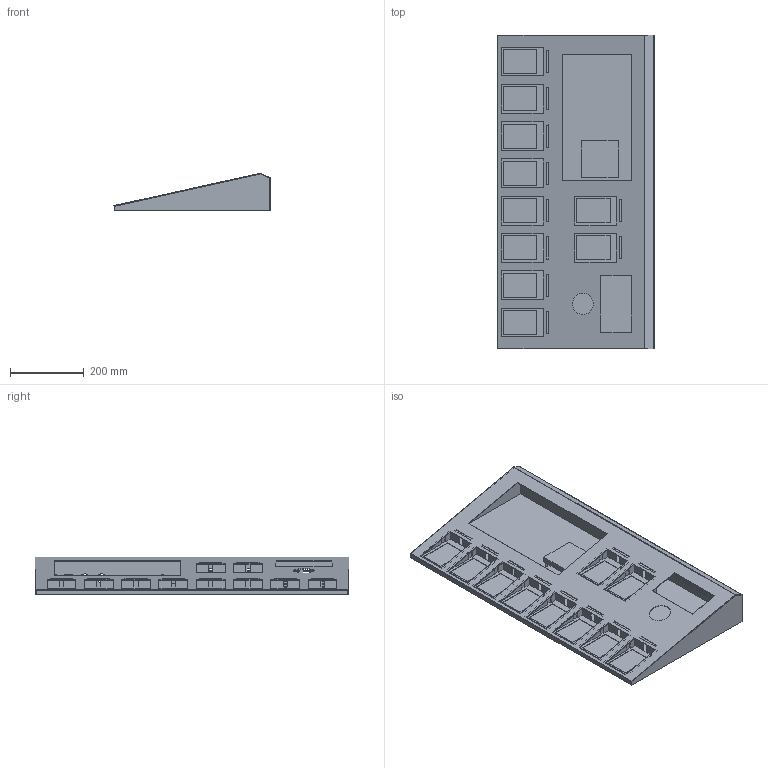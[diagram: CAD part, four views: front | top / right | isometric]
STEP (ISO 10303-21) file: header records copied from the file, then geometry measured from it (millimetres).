
FILE_DESCRIPTION(('Open CASCADE Model'),'2;1');
FILE_NAME('Open CASCADE Shape Model','2026-08-18T02:02:55',('Author'),( 'Open CASCADE'),'Open CASCADE STEP processor 7.9','Open CASCADE 7.9' ,'Unknown');
FILE_SCHEMA(('AUTOMOTIVE_DESIGN { 1 0 10303 214 1 1 1 1 }'));
Length unit declared in the file: millimetre
Products named in the file (23): Segno; bottom; front; rear; side_L; side_R; transition; faceplate; platform_0; platform_1; platform_2; platform_3; platform_4; platform_5; platform_6; platform_7; platform_8; platform_9; console_board; console_board_standoff_u467_d229; console_board_standoff_u467_d318; console_board_standoff_u556_d229; console_board_standoff_u556_d318
Assembly tree (22 placements, depth 2):
  Segno
    bottom
    front
    rear
    side_L
    side_R
    transition
    faceplate
    platform_0
    platform_1
    platform_2
    platform_3
    platform_4
    platform_5
    platform_6
    platform_7
    platform_8
    platform_9
    console_board
    console_board_standoff_u467_d229
    console_board_standoff_u467_d318
    console_board_standoff_u556_d229
    console_board_standoff_u556_d318
Bounding box: 423.43 x 850 x 101.95 mm (x, y, z)
Volume: 2592289.3 mm3; surface area: 1878238.4 mm2
Topology: 22 solids, 22 shells, 955 faces, 2413 edges, 1552 vertices
Faces by surface type: plane 838, cylinder 117
Full cylindrical faces by diameter (mm): 3.2 x4, 4.5 x40, 5.5 x4, 6.5 x1, 11.5 x1, 12 x21, 15.1 x2, 19.5 x1, 24 x2, 58 x1
Entity records: 58374 total; most frequent: CARTESIAN_POINT 11605, DIRECTION 7633, LINE 5001, VECTOR 5001, ORIENTED_EDGE 4866, PCURVE 4786, DEFINITIONAL_REPRESENTATION 4786, EDGE_CURVE 2393
